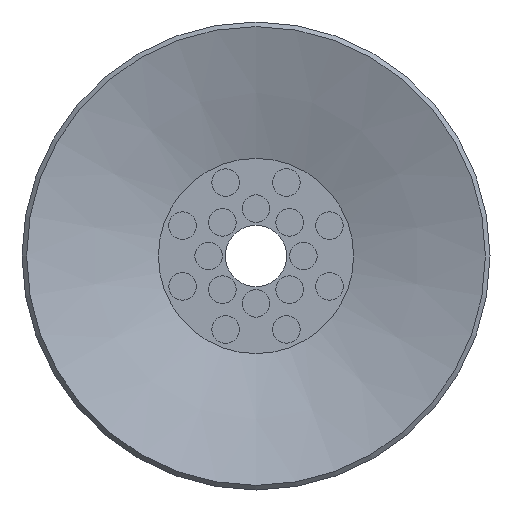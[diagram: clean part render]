
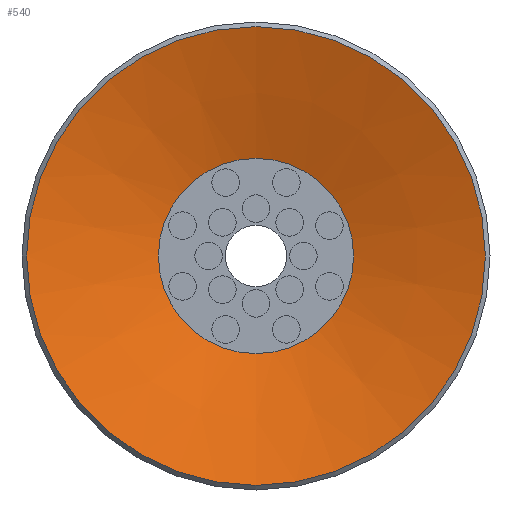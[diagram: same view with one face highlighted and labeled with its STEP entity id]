
A CAD part, front view. The second image highlights one B-rep face of the part: STEP entity #540.
In plain terms, the highlighted conical face has half-angle 72 degrees and reference radius 7.5 mm.
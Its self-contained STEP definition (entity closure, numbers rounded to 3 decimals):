
#540=ADVANCED_FACE('',(#808,#809),#810,.F.);
#808=FACE_BOUND('',#1180,.T.);
#809=FACE_OUTER_BOUND('',#1181,.T.);
#810=CONICAL_SURFACE('',#1182,7.5,1.257);
#1180=EDGE_LOOP('',(#1871));
#1181=EDGE_LOOP('',(#1872));
#1182=AXIS2_PLACEMENT_3D('',#1873,#1874,#1875);
#1871=ORIENTED_EDGE('',*,*,#2312,.T.);
#1872=ORIENTED_EDGE('',*,*,#2313,.F.);
#1873=CARTESIAN_POINT('',(0.0,0.,0.));
#1874=DIRECTION('',(0.0,0.,-1.0));
#1875=DIRECTION('',(0.0,1.0,0.));
#2312=EDGE_CURVE('',#2623,#2623,#2624,.T.);
#2313=EDGE_CURVE('',#2625,#2625,#2626,.T.);
#2623=VERTEX_POINT('',#3297);
#2624=CIRCLE('',#3298,3.191);
#2625=VERTEX_POINT('',#3299);
#2626=CIRCLE('',#3300,7.5);
#3297=CARTESIAN_POINT('',(0.0,-3.191,1.4));
#3298=AXIS2_PLACEMENT_3D('',#3677,#3678,#3679);
#3299=CARTESIAN_POINT('',(0.0,-7.5,0.));
#3300=AXIS2_PLACEMENT_3D('',#3680,#3681,#3682);
#3677=CARTESIAN_POINT('',(0.0,0.,1.4));
#3678=DIRECTION('',(0.0,0.,1.0));
#3679=DIRECTION('',(0.0,-1.0,0.));
#3680=CARTESIAN_POINT('',(0.0,0.,0.));
#3681=DIRECTION('',(0.0,0.,1.0));
#3682=DIRECTION('',(0.0,-1.0,0.));
